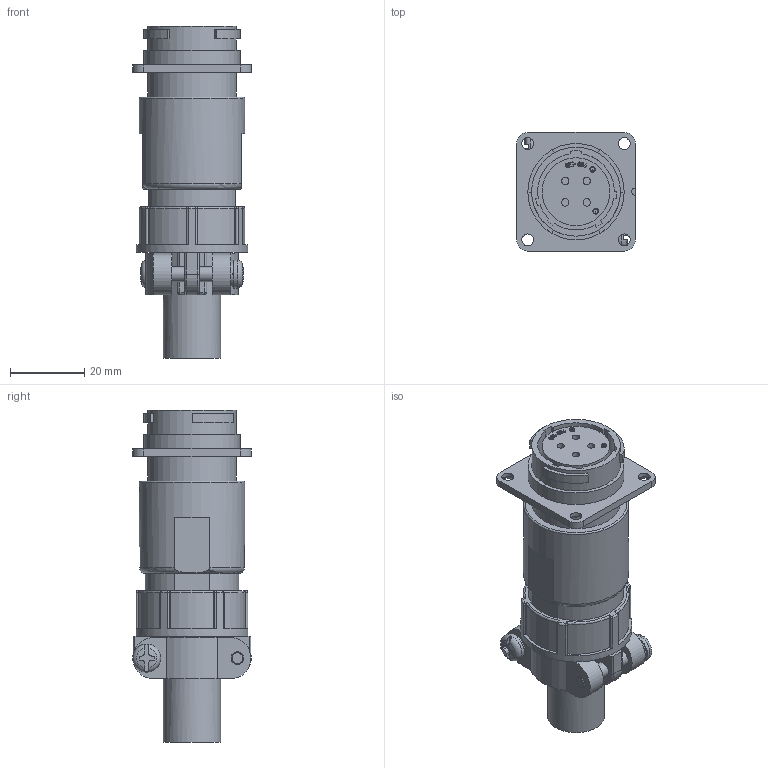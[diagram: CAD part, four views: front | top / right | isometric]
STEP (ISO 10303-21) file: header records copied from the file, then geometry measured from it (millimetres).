
FILE_DESCRIPTION (( 'STEP AP203' ), '1' );
FILE_NAME ('WEBWR2104F-2-D(R1).STEP', '2021-08-04T01:19:18', ( '' ), ( '' ), 'SwSTEP 2.0', 'SolidWorks 2018', '' );
FILE_SCHEMA (( 'CONFIG_CONTROL_DESIGN' ));
Length unit declared in the file: millimetre
Products named in the file (1): WEBWR2104F-2-D(R1)
Bounding box: 32 x 32.1 x 89.58 mm (x, y, z)
Volume: 30925.8 mm3; surface area: 19494.7 mm2
Topology: 1 solids, 1 shells, 604 faces, 1567 edges, 1005 vertices
Faces by surface type: plane 294, cylinder 150, bspline 99, torus 23, sphere 20, cone 18
Full cylindrical faces by diameter (mm): 1.2 x3, 1.4 x1, 1.5 x2, 1.7 x4, 2 x4, 2.4 x4, 2.8 x2, 3.2 x4, 3.4 x2, 4.1 x2, 4.3 x4, 7.6 x2, 11 x2, 15.46 x1, 15.8 x1, 16.22 x1, 17 x1, 18.3 x1, 20.1 x1, 20.45 x1, 23.96 x1, 24 x1, 26 x2, 28.4 x1, 30.2 x1
Entity records: 22410 total; most frequent: CARTESIAN_POINT 8553, ORIENTED_EDGE 2890, DIRECTION 2595, EDGE_CURVE 1445, VERTEX_POINT 972, AXIS2_PLACEMENT_3D 888, VECTOR 819, LINE 819
